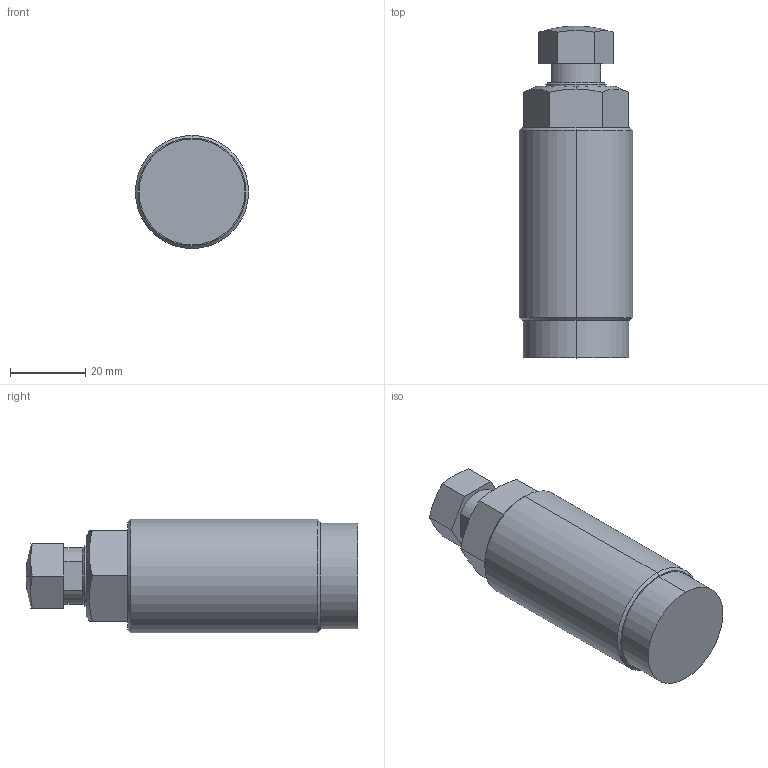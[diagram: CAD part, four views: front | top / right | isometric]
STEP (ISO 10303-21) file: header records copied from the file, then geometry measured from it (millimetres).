
FILE_DESCRIPTION (( 'STEP AP214' ), '1' );
FILE_NAME ('SP-16B4.STEP', '2021-10-19T00:32:10', ( '' ), ( '' ), 'SwSTEP 2.0', 'SolidWorks 2016', '' );
FILE_SCHEMA (( 'AUTOMOTIVE_DESIGN' ));
Length unit declared in the file: millimetre
Products named in the file (1): SP-16B4
Bounding box: 30 x 88 x 30 mm (x, y, z)
Volume: 50082.3 mm3; surface area: 9313.1 mm2
Topology: 1 solids, 2 shells, 45 faces, 100 edges, 61 vertices
Faces by surface type: plane 22, cylinder 11, cone 10, sphere 2
Entity records: 1355 total; most frequent: CARTESIAN_POINT 273, DIRECTION 221, ORIENTED_EDGE 196, EDGE_CURVE 98, AXIS2_PLACEMENT_3D 85, VERTEX_POINT 61, VECTOR 51, LINE 51
